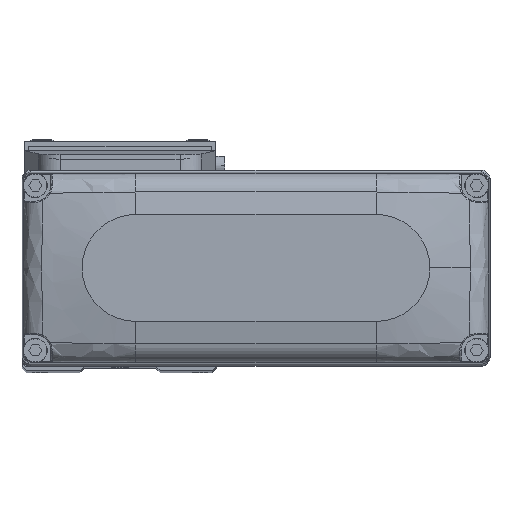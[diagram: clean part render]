
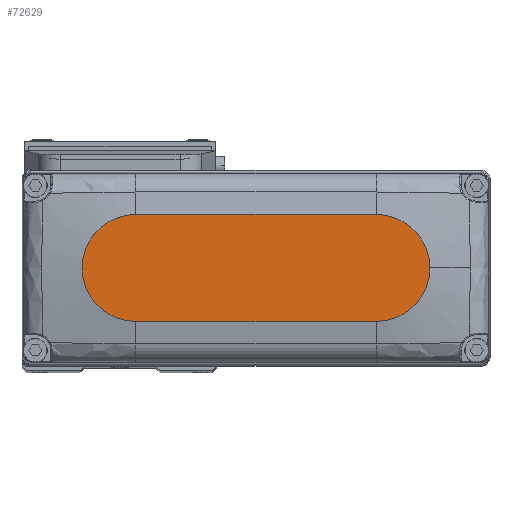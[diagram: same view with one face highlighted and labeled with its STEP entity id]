
A CAD part, top view. The second image highlights one B-rep face of the part: STEP entity #72629.
In plain terms, the highlighted planar face has unit normal (0, 0, 1).
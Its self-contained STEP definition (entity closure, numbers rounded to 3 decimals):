
#1820 = DIRECTION ( 'NONE',  ( -1., 0., 0. ) ) ;
#2183 = CIRCLE ( 'NONE', #45786, 12. ) ;
#2317 = AXIS2_PLACEMENT_3D ( 'NONE', #69244, #15837, #39608 ) ;
#3046 = CARTESIAN_POINT ( 'NONE',  ( 27., -12., 25. ) ) ;
#3663 = CIRCLE ( 'NONE', #57238, 12. ) ;
#4402 = DIRECTION ( 'NONE',  ( 0., 0., 1. ) ) ;
#6267 = VERTEX_POINT ( 'NONE', #51005 ) ;
#10017 = CARTESIAN_POINT ( 'NONE',  ( -27., 0., 25. ) ) ;
#10245 = CARTESIAN_POINT ( 'NONE',  ( 27., 0., 25. ) ) ;
#12234 = CARTESIAN_POINT ( 'NONE',  ( 27., 12., 25. ) ) ;
#15837 = DIRECTION ( 'NONE',  ( 0., 0., 1. ) ) ;
#15950 = CARTESIAN_POINT ( 'NONE',  ( -27., 12., 25. ) ) ;
#16505 = LINE ( 'NONE', #40263, #71389 ) ;
#18105 = VERTEX_POINT ( 'NONE', #12234 ) ;
#18794 = ORIENTED_EDGE ( 'NONE', *, *, #24669, .T. ) ;
#19440 = CIRCLE ( 'NONE', #63056, 12. ) ;
#20569 = VERTEX_POINT ( 'NONE', #3046 ) ;
#21669 = FACE_OUTER_BOUND ( 'NONE', #55133, .T. ) ;
#23666 = VERTEX_POINT ( 'NONE', #33085 ) ;
#24669 = EDGE_CURVE ( 'NONE', #23666, #18105, #2183, .T. ) ;
#25231 = EDGE_CURVE ( 'NONE', #18105, #32356, #31456, .T. ) ;
#27170 = VECTOR ( 'NONE', #1820, 1000. ) ;
#28209 = DIRECTION ( 'NONE',  ( 1., 0., 0. ) ) ;
#31456 = LINE ( 'NONE', #55276, #27170 ) ;
#31571 = ORIENTED_EDGE ( 'NONE', *, *, #39005, .T. ) ;
#32356 = VERTEX_POINT ( 'NONE', #15950 ) ;
#33085 = CARTESIAN_POINT ( 'NONE',  ( 39., 0., 25. ) ) ;
#33788 = DIRECTION ( 'NONE',  ( 0., 0., 1. ) ) ;
#34008 = DIRECTION ( 'NONE',  ( 0., 0., 1. ) ) ;
#39005 = EDGE_CURVE ( 'NONE', #20569, #23666, #19440, .T. ) ;
#39160 = ORIENTED_EDGE ( 'NONE', *, *, #58424, .T. ) ;
#39608 = DIRECTION ( 'NONE',  ( 1., 0., 0. ) ) ;
#40263 = CARTESIAN_POINT ( 'NONE',  ( -27., -12., 25. ) ) ;
#45465 = PLANE ( 'NONE',  #2317 ) ;
#45786 = AXIS2_PLACEMENT_3D ( 'NONE', #57850, #4402, #28209 ) ;
#46052 = EDGE_CURVE ( 'NONE', #32356, #6267, #3663, .T. ) ;
#51005 = CARTESIAN_POINT ( 'NONE',  ( -27., -12., 25. ) ) ;
#51015 = ORIENTED_EDGE ( 'NONE', *, *, #25231, .T. ) ;
#55133 = EDGE_LOOP ( 'NONE', ( #51015, #56260, #39160, #31571, #18794 ) ) ;
#55276 = CARTESIAN_POINT ( 'NONE',  ( -27., 12., 25. ) ) ;
#56260 = ORIENTED_EDGE ( 'NONE', *, *, #46052, .T. ) ;
#57238 = AXIS2_PLACEMENT_3D ( 'NONE', #10017, #33788, #57607 ) ;
#57607 = DIRECTION ( 'NONE',  ( 1., 0., 0. ) ) ;
#57823 = DIRECTION ( 'NONE',  ( 1., 0., 0. ) ) ;
#57850 = CARTESIAN_POINT ( 'NONE',  ( 27., 0., 25. ) ) ;
#58424 = EDGE_CURVE ( 'NONE', #6267, #20569, #16505, .T. ) ;
#63056 = AXIS2_PLACEMENT_3D ( 'NONE', #10245, #34008, #57823 ) ;
#64082 = DIRECTION ( 'NONE',  ( 1., 0., 0. ) ) ;
#69244 = CARTESIAN_POINT ( 'NONE',  ( 0., 0., 25. ) ) ;
#71389 = VECTOR ( 'NONE', #64082, 1000. ) ;
#72629 = ADVANCED_FACE ( 'NONE', ( #21669 ), #45465, .T. ) ;
